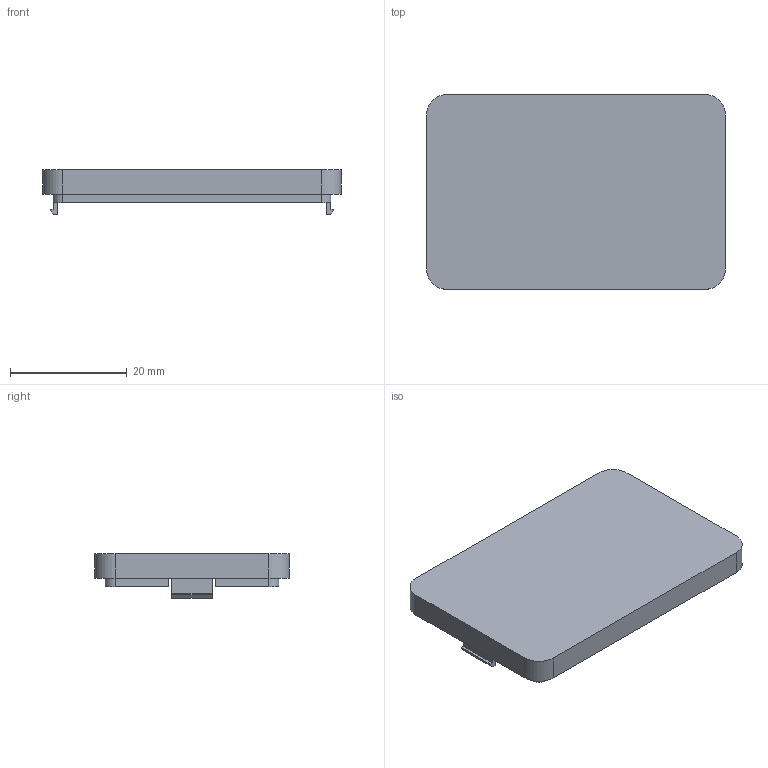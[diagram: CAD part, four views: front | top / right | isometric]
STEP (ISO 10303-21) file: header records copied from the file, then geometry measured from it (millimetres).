
FILE_DESCRIPTION(('Open CASCADE Model'),'2;1');
FILE_NAME('Open CASCADE Shape Model','2026-10-14T08:11:13',('Author'),( 'Open CASCADE'),'Open CASCADE STEP processor 7.9','Open CASCADE 7.9' ,'Unknown');
FILE_SCHEMA(('AUTOMOTIVE_DESIGN { 1 0 10303 214 1 1 1 1 }'));
Length unit declared in the file: millimetre
Products named in the file (1): Open CASCADE STEP translator 7.9 3
Bounding box: 51.3 x 33.4 x 7.65 mm (x, y, z)
Volume: 3037.7 mm3; surface area: 5650.7 mm2
Topology: 1 solids, 1 shells, 99 faces, 270 edges, 180 vertices
Faces by surface type: plane 67, cylinder 32
Entity records: 6574 total; most frequent: CARTESIAN_POINT 1272, DIRECTION 952, LINE 572, VECTOR 572, ORIENTED_EDGE 540, PCURVE 540, DEFINITIONAL_REPRESENTATION 540, EDGE_CURVE 270
